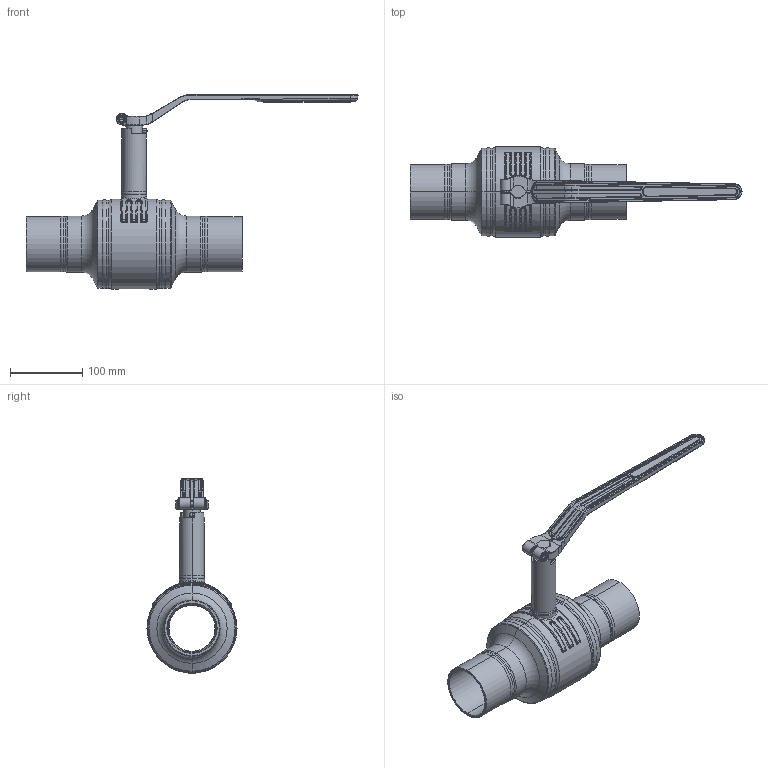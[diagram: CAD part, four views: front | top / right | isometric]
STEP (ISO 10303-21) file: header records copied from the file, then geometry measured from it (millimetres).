
FILE_DESCRIPTION((''),'2;1');
FILE_NAME('KHMO-S-V-H-065P040-VI_SW0001','2022-10-19T08:26:44',('jeitlers'),('KLINGER'),'CREO PARAMETRIC BY PTC INC, 2020184','CREO PARAMETRIC BY PTC INC, 2020184','');
FILE_SCHEMA(('AUTOMOTIVE_DESIGN { 1 0 10303 214 1 1 1 1 }'));
Length unit declared in the file: millimetre
Products named in the file (1): KHMO-S-V-H-065P040-VI_SW0001
Bounding box: 460.8 x 125 x 269.8 mm (x, y, z)
Volume: 1136978.9 mm3; surface area: 315745.7 mm2
Topology: 3 solids, 3 shells, 958 faces, 2228 edges, 1282 vertices
Faces by surface type: cylinder 300, bspline 208, torus 194, plane 153, cone 86, sphere 8, extrusion 8, revolution 1
Entity records: 55977 total; most frequent: CARTESIAN_POINT 34165, ORIENTED_EDGE 4438, DIRECTION 4197, EDGE_CURVE 2219, AXIS2_PLACEMENT_3D 1775, VERTEX_POINT 1282, CIRCLE 1020, EDGE_LOOP 997
